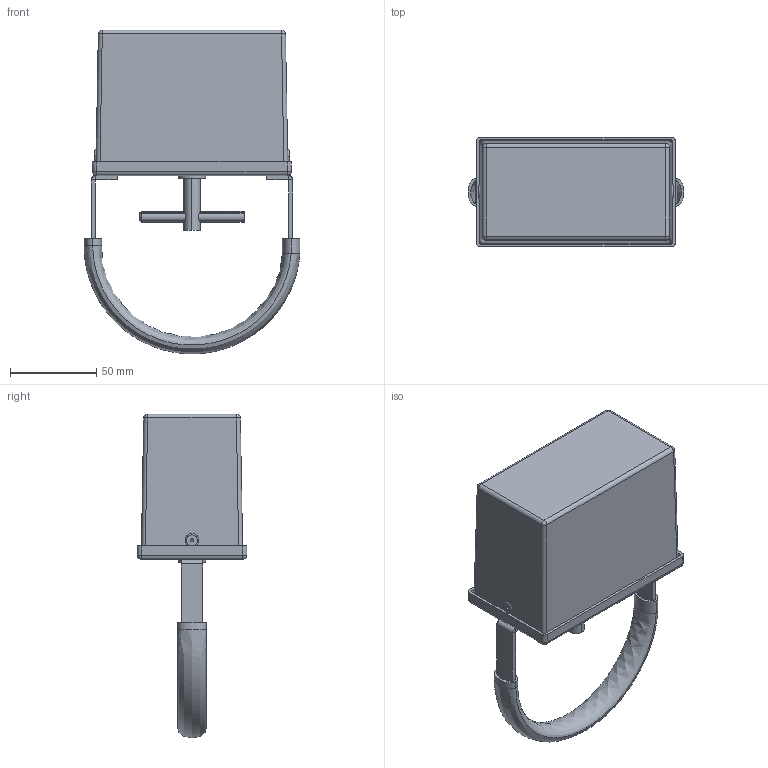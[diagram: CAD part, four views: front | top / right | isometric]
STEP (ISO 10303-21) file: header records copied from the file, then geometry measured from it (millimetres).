
FILE_DESCRIPTION (( 'STEP AP203' ), '1' );
FILE_NAME ('PR7200.STEP', '2018-08-20T13:56:17', ( '' ), ( '' ), 'SwSTEP 2.0', 'SolidWorks 2015', '' );
FILE_SCHEMA (( 'CONFIG_CONTROL_DESIGN' ));
Length unit declared in the file: inch
Products named in the file (1): PR7200
Bounding box: 124.94 x 63.5 x 187.32 mm (x, y, z)
Volume: 93601.1 mm3; surface area: 115014 mm2
Topology: 9 solids, 9 shells, 243 faces, 523 edges, 306 vertices
Faces by surface type: cylinder 84, plane 80, cone 43, sphere 20, bspline 12, torus 4
Entity records: 16704 total; most frequent: CARTESIAN_POINT 11362, DIRECTION 1146, ORIENTED_EDGE 1046, EDGE_CURVE 523, AXIS2_PLACEMENT_3D 445, VERTEX_POINT 306, EDGE_LOOP 275, VECTOR 256
